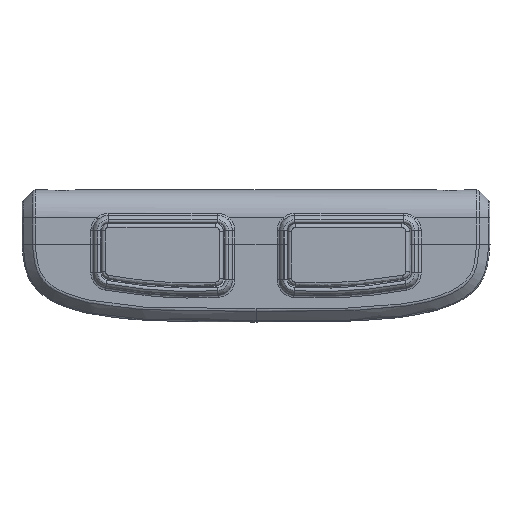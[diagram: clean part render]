
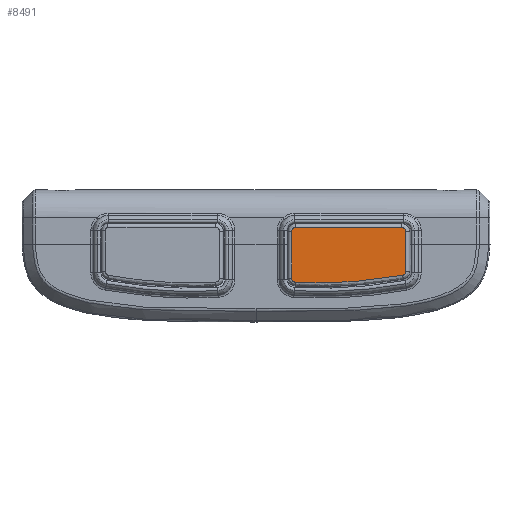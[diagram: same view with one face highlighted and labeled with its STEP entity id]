
A CAD part, top view. The second image highlights one B-rep face of the part: STEP entity #8491.
In plain terms, the highlighted planar face has unit normal (0, 0, 1).
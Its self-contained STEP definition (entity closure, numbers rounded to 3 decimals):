
#17 =( BOUNDED_CURVE ( )  B_SPLINE_CURVE ( 3, ( #2641, #2676, #2648, #2633 ),
 .UNSPECIFIED., .F., .T. ) 
 B_SPLINE_CURVE_WITH_KNOTS ( ( 4, 4 ),
 ( 0., 1. ),
 .UNSPECIFIED. ) 
 CURVE ( )  GEOMETRIC_REPRESENTATION_ITEM ( )  RATIONAL_B_SPLINE_CURVE ( ( 1., 0.805, 0.805, 1. ) ) 
 REPRESENTATION_ITEM ( '' )  );
#24 =( BOUNDED_CURVE ( )  B_SPLINE_CURVE ( 3, ( #2015, #2003, #2005, #1974 ),
 .UNSPECIFIED., .F., .T. ) 
 B_SPLINE_CURVE_WITH_KNOTS ( ( 4, 4 ),
 ( 0., 1. ),
 .UNSPECIFIED. ) 
 CURVE ( )  GEOMETRIC_REPRESENTATION_ITEM ( )  RATIONAL_B_SPLINE_CURVE ( ( 1., 0.995, 0.995, 1. ) ) 
 REPRESENTATION_ITEM ( '' )  );
#1974 = CARTESIAN_POINT ( 'NONE',  ( 0.794, -6.191, 8. ) ) ;
#2003 = CARTESIAN_POINT ( 'NONE',  ( 10.05, -6.144, 8. ) ) ;
#2005 = CARTESIAN_POINT ( 'NONE',  ( 5.423, -6.439, 8. ) ) ;
#2015 = CARTESIAN_POINT ( 'NONE',  ( 14.61, -5.313, 8. ) ) ;
#2074 = CARTESIAN_POINT ( 'NONE',  ( 0.321, -5.692, 8. ) ) ;
#2075 = CARTESIAN_POINT ( 'NONE',  ( 14.867, -5.186, 8. ) ) ;
#2079 = DIRECTION ( 'NONE',  ( 0., -1., 0. ) ) ;
#2084 = CARTESIAN_POINT ( 'NONE',  ( 0.587, -6.134, 8. ) ) ;
#2086 = CARTESIAN_POINT ( 'NONE',  ( 0.517, -6.091, 8. ) ) ;
#2088 = CARTESIAN_POINT ( 'NONE',  ( 0.672, -6.173, 8. ) ) ;
#2092 = CARTESIAN_POINT ( 'NONE',  ( 0.558, -6.118, 8. ) ) ;
#2093 = CARTESIAN_POINT ( 'NONE',  ( 0.73, -6.187, 8. ) ) ;
#2094 = CARTESIAN_POINT ( 'NONE',  ( 14.61, -5.313, 8. ) ) ;
#2095 = CARTESIAN_POINT ( 'NONE',  ( 14.67, -5.301, 8. ) ) ;
#2096 = CARTESIAN_POINT ( 'NONE',  ( 14.724, -5.281, 8. ) ) ;
#2100 = CARTESIAN_POINT ( 'NONE',  ( 0.322, -5.825, 8. ) ) ;
#2102 = CARTESIAN_POINT ( 'NONE',  ( 0.48, -6.059, 8. ) ) ;
#2105 = CARTESIAN_POINT ( 'NONE',  ( 0.604, -6.143, 8. ) ) ;
#2107 = CARTESIAN_POINT ( 'NONE',  ( 14.822, -5.224, 8. ) ) ;
#2109 = CARTESIAN_POINT ( 'NONE',  ( 0.794, -6.191, 8. ) ) ;
#2111 = CARTESIAN_POINT ( 'NONE',  ( 0.369, -5.941, 8. ) ) ;
#2113 = CARTESIAN_POINT ( 'NONE',  ( 15.021, 0.332, 8. ) ) ;
#2115 = CARTESIAN_POINT ( 'NONE',  ( 14.996, 0.486, 8. ) ) ;
#2116 = CARTESIAN_POINT ( 'NONE',  ( 15.011, -4.936, 8. ) ) ;
#2117 = CARTESIAN_POINT ( 'NONE',  ( 14.923, 0.637, 8. ) ) ;
#2120 = CARTESIAN_POINT ( 'NONE',  ( 14.719, 0.791, 8. ) ) ;
#2124 = CARTESIAN_POINT ( 'NONE',  ( 14.646, 0.82, 8. ) ) ;
#2128 = CARTESIAN_POINT ( 'NONE',  ( 14.94, -5.094, 8. ) ) ;
#2129 = CARTESIAN_POINT ( 'NONE',  ( 15.005, 0.456, 8. ) ) ;
#2131 = CARTESIAN_POINT ( 'NONE',  ( 14.521, 0.832, 8. ) ) ;
#2134 = CARTESIAN_POINT ( 'NONE',  ( 14.992, 0.5, 8. ) ) ;
#2135 = CARTESIAN_POINT ( 'NONE',  ( 14.811, 0.742, 8. ) ) ;
#2137 = CARTESIAN_POINT ( 'NONE',  ( 15.021, -4.821, 8. ) ) ;
#2139 = CARTESIAN_POINT ( 'NONE',  ( 14.85, 0.71, 8. ) ) ;
#2141 = DIRECTION ( 'NONE',  ( 1., 0., 0. ) ) ;
#2142 = CARTESIAN_POINT ( 'NONE',  ( 14.736, 0.783, 8. ) ) ;
#2143 = CARTESIAN_POINT ( 'NONE',  ( 14.96, 0.58, 8. ) ) ;
#2149 = CARTESIAN_POINT ( 'NONE',  ( 14.97, -5.041, 8. ) ) ;
#2152 = CARTESIAN_POINT ( 'NONE',  ( 14.767, 0.768, 8. ) ) ;
#2154 = CARTESIAN_POINT ( 'NONE',  ( 14.585, 0.832, 8. ) ) ;
#2155 = CARTESIAN_POINT ( 'NONE',  ( 15.016, 0.411, 8. ) ) ;
#2159 = CARTESIAN_POINT ( 'NONE',  ( 15.02, -4.88, 8. ) ) ;
#2161 = CARTESIAN_POINT ( 'NONE',  ( 14.982, -5.015, 8. ) ) ;
#2162 = CARTESIAN_POINT ( 'NONE',  ( 15.021, 0.332, 8. ) ) ;
#2164 = CARTESIAN_POINT ( 'NONE',  ( 0.821, 0.832, 8. ) ) ;
#2166 = CARTESIAN_POINT ( 'NONE',  ( 14.923, -5.119, 8. ) ) ;
#2167 = CARTESIAN_POINT ( 'NONE',  ( 15.021, 0.364, 8. ) ) ;
#2550 = CARTESIAN_POINT ( 'NONE',  ( 0.321, 0.332, 8. ) ) ;
#2568 = DIRECTION ( 'NONE',  ( 0., 1., 0. ) ) ;
#2633 = CARTESIAN_POINT ( 'NONE',  ( 0.821, 0.832, 8. ) ) ;
#2641 = CARTESIAN_POINT ( 'NONE',  ( 0.321, 0.332, 8. ) ) ;
#2648 = CARTESIAN_POINT ( 'NONE',  ( 0.528, 0.832, 8. ) ) ;
#2676 = CARTESIAN_POINT ( 'NONE',  ( 0.321, 0.625, 8. ) ) ;
#3397 = CARTESIAN_POINT ( 'NONE',  ( 0.794, -6.191, 8. ) ) ;
#3408 = CARTESIAN_POINT ( 'NONE',  ( 15.021, 0.332, 8. ) ) ;
#3427 = CARTESIAN_POINT ( 'NONE',  ( 15.021, -4.821, 8. ) ) ;
#3431 = CARTESIAN_POINT ( 'NONE',  ( 0.821, 0.832, 8. ) ) ;
#3450 = CARTESIAN_POINT ( 'NONE',  ( 0.321, 0.332, 8. ) ) ;
#3468 = CARTESIAN_POINT ( 'NONE',  ( 14.61, -5.313, 8. ) ) ;
#3474 = CARTESIAN_POINT ( 'NONE',  ( 14.521, 0.832, 8. ) ) ;
#3486 = CARTESIAN_POINT ( 'NONE',  ( 0.321, -5.692, 8. ) ) ;
#4528 = LINE ( 'NONE', #2164, #4532 ) ;
#4531 = VECTOR ( 'NONE', #2079, 1000. ) ;
#4532 = VECTOR ( 'NONE', #2141, 1000. ) ;
#4565 = LINE ( 'NONE', #2113, #4531 ) ;
#4617 = VECTOR ( 'NONE', #2568, 1000. ) ;
#4624 = LINE ( 'NONE', #2550, #4617 ) ;
#8491 = ADVANCED_FACE ( 'NONE', ( #15100 ), #8868, .T. ) ;
#8825 = CARTESIAN_POINT ( 'NONE',  ( 0.821, 0.332, 8. ) ) ;
#8839 = DIRECTION ( 'NONE',  ( 0., 0., 1. ) ) ;
#8840 = DIRECTION ( 'NONE',  ( 1., 0., 0. ) ) ;
#8868 = PLANE ( 'NONE',  #14340 ) ;
#10045 = VERTEX_POINT ( 'NONE', #3408 ) ;
#10046 = VERTEX_POINT ( 'NONE', #3397 ) ;
#10052 = VERTEX_POINT ( 'NONE', #3431 ) ;
#10060 = VERTEX_POINT ( 'NONE', #3427 ) ;
#10065 = VERTEX_POINT ( 'NONE', #3468 ) ;
#10078 = VERTEX_POINT ( 'NONE', #3486 ) ;
#10097 = VERTEX_POINT ( 'NONE', #3474 ) ;
#10098 = VERTEX_POINT ( 'NONE', #3450 ) ;
#13870 = B_SPLINE_CURVE_WITH_KNOTS ( 'NONE', 3,
 ( #2094, #2095, #2096, #2107, #2075, #2166, #2128, #2149, #2161, #2116, #2159, #2137 ),
 .UNSPECIFIED., .F., .F.,
 ( 4, 2, 2, 2, 2, 4 ),
 ( 0., 0.25, 0.5, 0.625, 0.75, 1. ),
 .UNSPECIFIED. ) ;
#13903 = B_SPLINE_CURVE_WITH_KNOTS ( 'NONE', 3,
 ( #2074, #2100, #2111, #2102, #2086, #2092, #2084, #2105, #2088, #2093, #2109 ),
 .UNSPECIFIED., .F., .F.,
 ( 4, 2, 1, 2, 2, 4 ),
 ( 0., 0.5, 0.625, 0.688, 0.75, 1. ),
 .UNSPECIFIED. ) ;
#13916 = B_SPLINE_CURVE_WITH_KNOTS ( 'NONE', 3,
 ( #2162, #2167, #2155, #2129, #2115, #2134, #2143, #2117, #2139, #2135, #2152, #2142, #2120, #2124, #2154, #2131 ),
 .UNSPECIFIED., .F., .F.,
 ( 4, 1, 2, 2, 2, 1, 2, 2, 4 ),
 ( 0., 0.125, 0.187, 0.25, 0.5, 0.625, 0.687, 0.75, 1. ),
 .UNSPECIFIED. ) ;
#14220 = EDGE_CURVE ( 'NONE', #10065, #10046, #24, .T. ) ;
#14340 = AXIS2_PLACEMENT_3D ( 'NONE', #8825, #8839, #8840 ) ;
#14607 = EDGE_CURVE ( 'NONE', #10045, #10060, #4565, .T. ) ;
#14613 = EDGE_CURVE ( 'NONE', #10078, #10046, #13903, .T. ) ;
#14615 = EDGE_CURVE ( 'NONE', #10065, #10060, #13870, .T. ) ;
#14618 = EDGE_CURVE ( 'NONE', #10045, #10097, #13916, .T. ) ;
#14619 = EDGE_CURVE ( 'NONE', #10052, #10097, #4528, .T. ) ;
#14669 = EDGE_CURVE ( 'NONE', #10078, #10098, #4624, .T. ) ;
#14682 = EDGE_CURVE ( 'NONE', #10098, #10052, #17, .T. ) ;
#15100 = FACE_OUTER_BOUND ( 'NONE', #16184, .T. ) ;
#15703 = ORIENTED_EDGE ( 'NONE', *, *, #14607, .F. ) ;
#15718 = ORIENTED_EDGE ( 'NONE', *, *, #14619, .F. ) ;
#15739 = ORIENTED_EDGE ( 'NONE', *, *, #14613, .T. ) ;
#15747 = ORIENTED_EDGE ( 'NONE', *, *, #14682, .F. ) ;
#15748 = ORIENTED_EDGE ( 'NONE', *, *, #14615, .T. ) ;
#15759 = ORIENTED_EDGE ( 'NONE', *, *, #14220, .F. ) ;
#15761 = ORIENTED_EDGE ( 'NONE', *, *, #14618, .T. ) ;
#15775 = ORIENTED_EDGE ( 'NONE', *, *, #14669, .F. ) ;
#16184 = EDGE_LOOP ( 'NONE', ( #15748, #15703, #15761, #15718, #15747, #15775, #15739, #15759 ) ) ;
